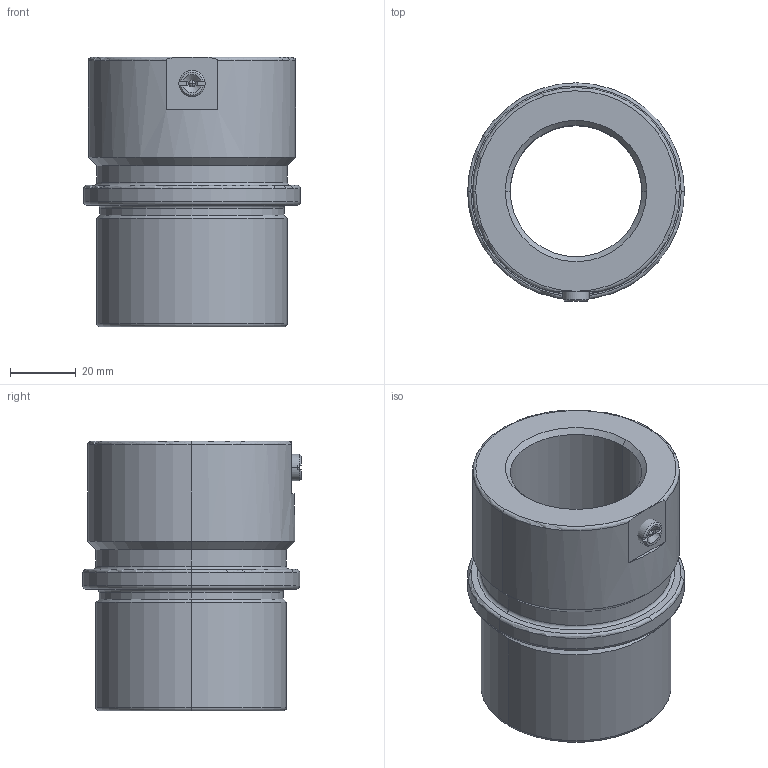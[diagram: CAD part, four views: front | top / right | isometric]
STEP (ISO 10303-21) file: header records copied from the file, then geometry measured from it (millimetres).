
FILE_DESCRIPTION(('CATIA V5 STEP Exchange'),'2;1');
FILE_NAME('C:\Users\Utente\Desktop\IO LAVORO\3D X SITO CF\X SITO\744\744-40.stp','2020-12-23T21:14:04+00:00',('none'),('none'),'CATIA Version 5 Release 20 GA (IN-10)','CATIA V5 STEP AP203','none');
FILE_SCHEMA(('CONFIG_CONTROL_DESIGN'));
Length unit declared in the file: millimetre
Products named in the file (1): 744-40
Bounding box: 66 x 66.5 x 82 mm (x, y, z)
Volume: 132250.2 mm3; surface area: 30923.7 mm2
Topology: 2 solids, 2 shells, 67 faces, 156 edges, 92 vertices
Faces by surface type: cylinder 16, plane 16, cone 16, torus 15, sphere 4
Entity records: 2039 total; most frequent: CARTESIAN_POINT 541, ORIENTED_EDGE 304, DIRECTION 266, AXIS2_PLACEMENT_3D 155, EDGE_CURVE 152, VERTEX_POINT 92, CIRCLE 87, EDGE_LOOP 74
